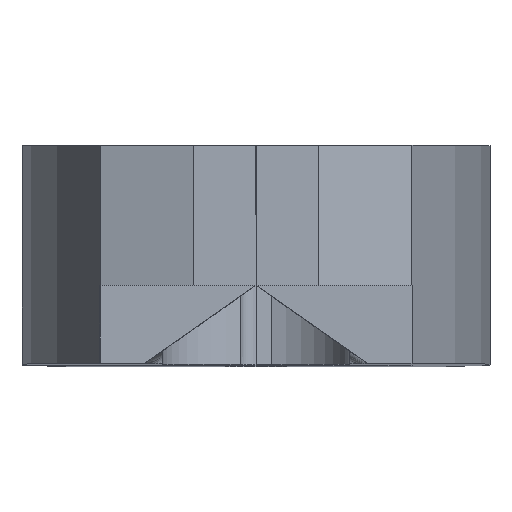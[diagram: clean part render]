
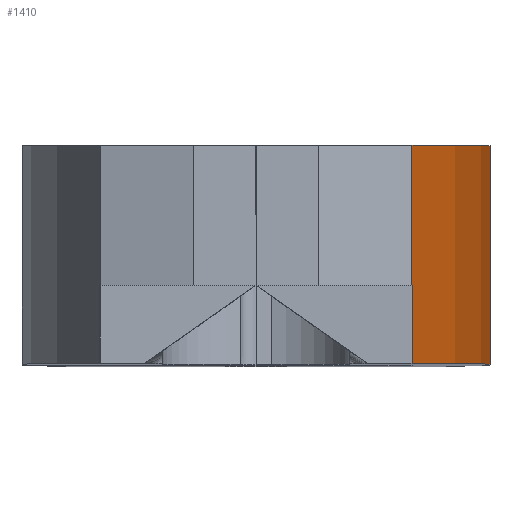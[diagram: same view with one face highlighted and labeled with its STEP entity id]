
A CAD part, top view. The second image highlights one B-rep face of the part: STEP entity #1410.
In plain terms, the highlighted cylindrical face has radius 25 mm (diameter 50 mm), a partial arc.
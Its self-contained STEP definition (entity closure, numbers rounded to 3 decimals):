
#27 = DIRECTION ( 'NONE',  ( 0., -1., 0. ) ) ;
#157 = EDGE_CURVE ( 'NONE', #3150, #3113, #2835, .T. ) ;
#222 = DIRECTION ( 'NONE',  ( 0., 0., -1. ) ) ;
#298 = CARTESIAN_POINT ( 'NONE',  ( -17.5, 7., 17.299 ) ) ;
#314 = DIRECTION ( 'NONE',  ( 0., -1., 0. ) ) ;
#343 = EDGE_CURVE ( 'NONE', #1255, #3113, #3051, .T. ) ;
#387 = AXIS2_PLACEMENT_3D ( 'NONE', #807, #27, #222 ) ;
#493 = CARTESIAN_POINT ( 'NONE',  ( 5., 3.5, 28.196 ) ) ;
#567 = DIRECTION ( 'NONE',  ( 0., 0., -1. ) ) ;
#715 = VECTOR ( 'NONE', #2043, 1000. ) ;
#769 = EDGE_CURVE ( 'NONE', #1491, #1502, #3284, .T. ) ;
#807 = CARTESIAN_POINT ( 'NONE',  ( -17.5, 7., 17.299 ) ) ;
#965 = ORIENTED_EDGE ( 'NONE', *, *, #343, .T. ) ;
#1047 = VECTOR ( 'NONE', #314, 1000. ) ;
#1163 = CARTESIAN_POINT ( 'NONE',  ( -17.5, 0., 17.299 ) ) ;
#1205 = LINE ( 'NONE', #2152, #1047 ) ;
#1229 = CARTESIAN_POINT ( 'NONE',  ( 7.5, 0., 17.299 ) ) ;
#1255 = VERTEX_POINT ( 'NONE', #2700 ) ;
#1410 = ADVANCED_FACE ( 'NONE', ( #2426 ), #1619, .T. ) ;
#1491 = VERTEX_POINT ( 'NONE', #2012 ) ;
#1502 = VERTEX_POINT ( 'NONE', #2316 ) ;
#1619 = CYLINDRICAL_SURFACE ( 'NONE', #387, 25. ) ;
#1647 = DIRECTION ( 'NONE',  ( 0., -1., 0. ) ) ;
#1824 = ORIENTED_EDGE ( 'NONE', *, *, #2108, .T. ) ;
#1860 = VECTOR ( 'NONE', #1647, 1000. ) ;
#2012 = CARTESIAN_POINT ( 'NONE',  ( 5., 7., 28.196 ) ) ;
#2043 = DIRECTION ( 'NONE',  ( 0., -1., 0. ) ) ;
#2108 = EDGE_CURVE ( 'NONE', #1502, #1255, #1205, .T. ) ;
#2144 = DIRECTION ( 'NONE',  ( 0., 1., 0. ) ) ;
#2152 = CARTESIAN_POINT ( 'NONE',  ( 5., 3.5, 28.196 ) ) ;
#2199 = EDGE_CURVE ( 'NONE', #1491, #3150, #2844, .T. ) ;
#2258 = ORIENTED_EDGE ( 'NONE', *, *, #2199, .F. ) ;
#2316 = CARTESIAN_POINT ( 'NONE',  ( 5., 2.5, 28.196 ) ) ;
#2342 = ORIENTED_EDGE ( 'NONE', *, *, #157, .F. ) ;
#2426 = FACE_OUTER_BOUND ( 'NONE', #2588, .T. ) ;
#2500 = DIRECTION ( 'NONE',  ( 0., 1., 0. ) ) ;
#2579 = CARTESIAN_POINT ( 'NONE',  ( 7.5, 3.5, 17.299 ) ) ;
#2588 = EDGE_LOOP ( 'NONE', ( #965, #2342, #2258, #3200, #1824 ) ) ;
#2700 = CARTESIAN_POINT ( 'NONE',  ( 5., 0., 28.196 ) ) ;
#2744 = AXIS2_PLACEMENT_3D ( 'NONE', #298, #2144, #567 ) ;
#2835 = LINE ( 'NONE', #2579, #715 ) ;
#2844 = CIRCLE ( 'NONE', #2744, 25. ) ;
#3051 = CIRCLE ( 'NONE', #3273, 25. ) ;
#3113 = VERTEX_POINT ( 'NONE', #1229 ) ;
#3150 = VERTEX_POINT ( 'NONE', #3381 ) ;
#3200 = ORIENTED_EDGE ( 'NONE', *, *, #769, .T. ) ;
#3250 = DIRECTION ( 'NONE',  ( 0., 0., -1. ) ) ;
#3273 = AXIS2_PLACEMENT_3D ( 'NONE', #1163, #2500, #3250 ) ;
#3284 = LINE ( 'NONE', #493, #1860 ) ;
#3381 = CARTESIAN_POINT ( 'NONE',  ( 7.5, 7., 17.299 ) ) ;
